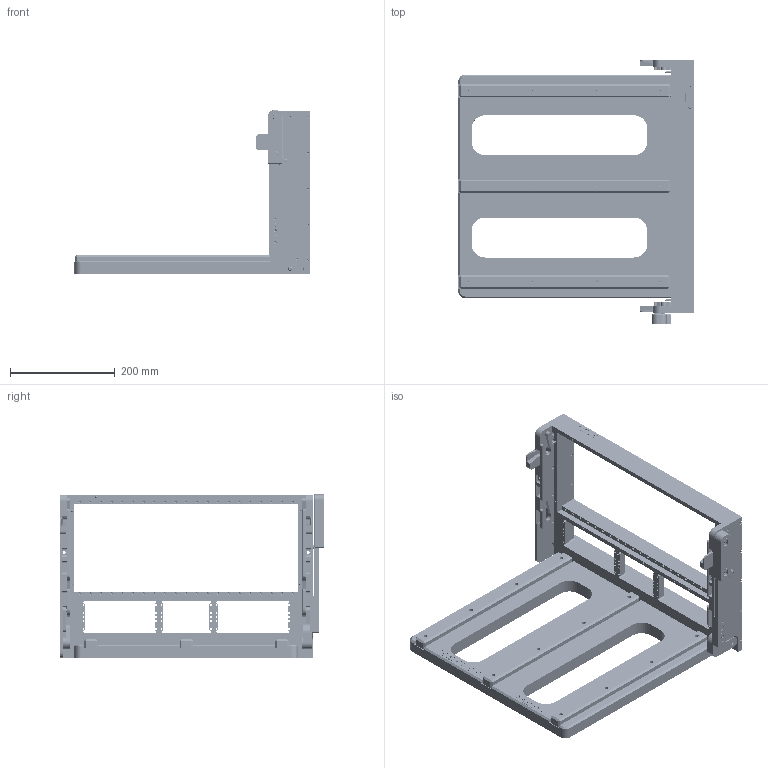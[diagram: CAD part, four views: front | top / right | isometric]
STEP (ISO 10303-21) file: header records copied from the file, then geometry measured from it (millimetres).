
FILE_DESCRIPTION(/* description */ (''),/* implementation_level */ '2;1');
FILE_NAME(/* name */ 'F:\CAD\CAD COMPLETE\web site project\Receivers\564003-RevA-STP\564003-RevA-STP.stp',/* time_stamp */ '2015-07-03T09:27:24+01:00',/* author */ ('davecooper'),/* organization */ (''),/* preprocessor_version */ 'ST-DEVELOPER v15.2',/* originating_system */ 'Autodesk Inventor 2014',/* authorisation */ '');
FILE_SCHEMA (('AUTOMOTIVE_DESIGN { 1 0 10303 214 3 1 1 }'));
Products named in the file (1): 564003-CU
Bounding box: 448.83 x 504.77 x 311.79 mm (x, y, z)
Surface area: 1103751.1 mm2 (no closed solid volume)
Topology: 0 solids, 126 shells, 7848 faces, 20391 edges, 13231 vertices
Faces by surface type: plane 3262, bspline 2045, cylinder 1378, cone 1105, torus 38, sphere 20
Full cylindrical faces by diameter (mm): 0.005 x2, 1.524 x4, 1.981 x1, 2.184 x4, 2.322 x7, 2.362 x2, 2.388 x2, 2.642 x23, 2.794 x1, 2.946 x2, 2.972 x1, 3.175 x5, 3.251 x4, 3.277 x2, 3.302 x12, 3.505 x19, 3.551 x303, 3.556 x1, 3.658 x30, 3.81 x16, 3.962 x10, 3.967 x2, 4.166 x316, 4.496 x12, 4.521 x42, 4.572 x16, 4.775 x16, 4.826 x12, 4.953 x1, 5.105 x12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
Entity records: 263447 total; most frequent: CARTESIAN_POINT 92337, ORIENTED_EDGE 35782, DIRECTION 26321, EDGE_CURVE 17891, VERTEX_POINT 12777, EDGE_LOOP 10736, AXIS2_PLACEMENT_3D 8777, LINE 8767
